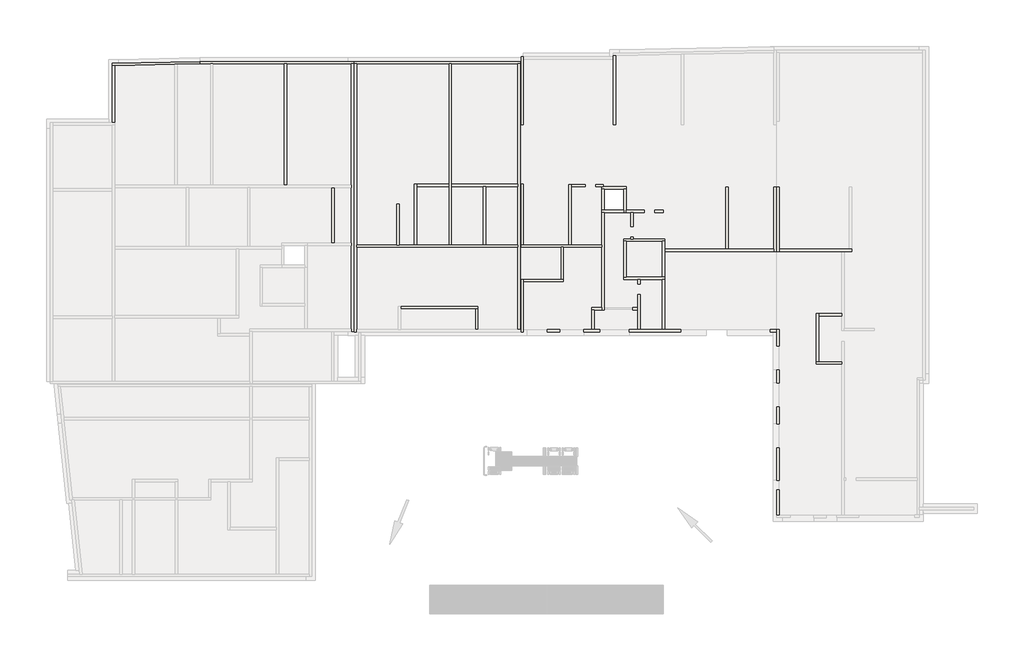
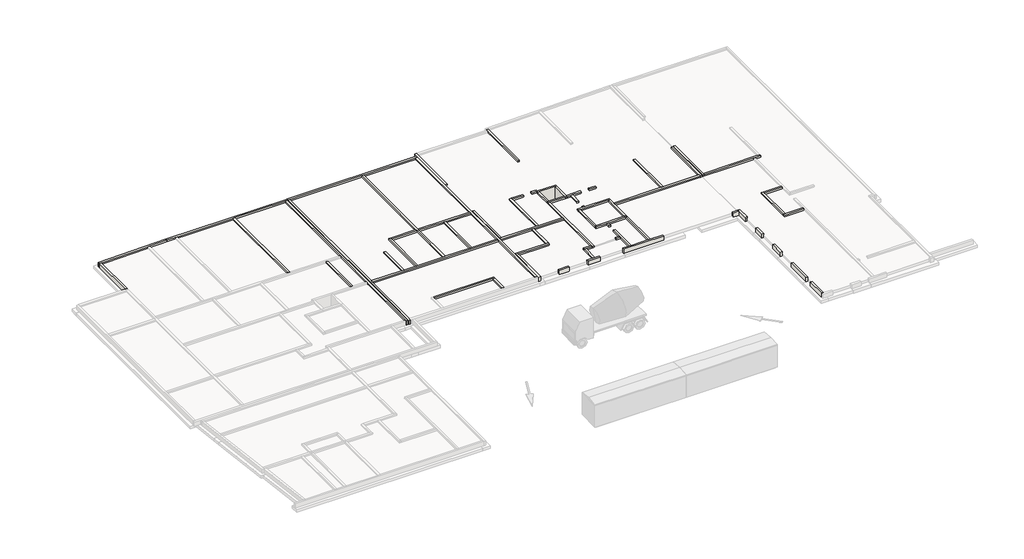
# One storey, part 2 of 5: 63 walls.
"""IFC4 building model written with IfcOpenShell, lengths in millimetres."""

from ifc_helpers import new_model, si_unit, frame, origin, place, context, project, spatial, polyline, outline, extrude, faceted_brep, element, save

model = new_model("IFC4")

# Units and contexts
model_context = context("Model", 3, world=origin())
ifc_project = project(units=[si_unit("LENGTHUNIT", "METRE", prefix="MILLI")], contexts=[model_context])

# Site, building, storey
site = spatial("IfcSite", under=ifc_project)
building = spatial("IfcBuilding", under=site)
storey = spatial("IfcBuildingStorey", under=building, Name="Base Mur soubassement", Elevation=-480.0)

# Walls
placement = place(None, origin())
element("IfcWall", 1, ObjectType="Ext. Voile BA 20", at=placement, inside=storey, context=model_context, shape_type="SweptSolid", body=[
    extrude(outline(polyline([(47687.6540405, 18465.2923443), (47687.6540405, 18865.2786309), (47887.6540405, 18865.2786309), (47887.6540405, 18465.2923443), (47687.6540405, 18465.2923443)])), frame((0.0, 0.0, -480.0), z_axis=(0.0, 0.0, 1.0), x_axis=(1.0, 0.0, 0.0)), (0.0, 0.0, 1.0), 480.0),
])
element("IfcWall", 2, ObjectType="Ext. Voile BA 20", at=placement, inside=storey, context=model_context, shape_type="Brep", body=[
    faceted_brep([(38068.6597873, 18684.2379364, -480.0), (41428.6220947, 18684.2379364, -480.0), (41428.6220947, 18684.2379364, 0.0), (38068.6597873, 18684.2379364, 0.0), (38068.6597873, 18884.2379364, -480.0), (38068.6597873, 18884.2379364, 0.0), (41228.6220947, 18884.2379364, 0.0), (41428.6220947, 18884.2379364, 0.0), (41428.6220947, 18884.2379364, -480.0), (41228.6220947, 18884.2379364, -480.0)], [[[0, 1, 2, 3]], [[4, 5, 6, 7, 8, 9]], [[1, 0, 4, 9, 8]], [[3, 2, 7, 6, 5]], [[0, 3, 5, 4]], [[2, 1, 8, 7]]]),
])
element("IfcWall", 3, ObjectType="Ext. Voile BA 20", at=placement, inside=storey, context=model_context, shape_type="SweptSolid", body=[
    extrude(outline(polyline([(47287.0291518, 22428.2705469), (47287.0291518, 22282.4542325), (47087.0291518, 22282.4542325), (47087.0291518, 22428.2705469), (47287.0291518, 22428.2705469)])), frame((0.0, 0.0, -480.0), z_axis=(0.0, 0.0, 1.0), x_axis=(1.0, 0.0, 0.0)), (0.0, 0.0, 1.0), 480.0),
])
element("IfcWall", 4, ObjectType="Ext. Voile BA 20", at=placement, inside=storey, context=model_context, shape_type="Brep", body=[
    faceted_brep([(49924.9149229, 21222.6249159, -480.0), (59092.1504559, 21222.6249159, -480.0), (59092.1504559, 21222.6249159, 0.0), (49924.9149229, 21222.6249159, 0.0), (49924.9149229, 21422.6249159, -480.0), (49924.9149229, 21422.6249159, 0.0), (55055.0439194, 21422.6249159, 0.0), (55255.0439194, 21422.6249159, 0.0), (59092.1504559, 21422.6249159, 0.0), (59092.1504559, 21422.6249159, -480.0), (55255.0439194, 21422.6249159, -480.0), (55055.0439194, 21422.6249159, -480.0)], [[[0, 1, 2, 3]], [[4, 5, 6, 7, 8, 9, 10, 11]], [[1, 0, 4, 11, 10, 9]], [[2, 1, 9, 8]], [[3, 2, 8, 7, 6, 5]], [[0, 3, 5, 4]]]),
])
element("IfcWall", 5, ObjectType="Ext. Voile BA 20", at=placement, inside=storey, context=model_context, shape_type="Brep", body=[
    faceted_brep([(59552.3933514, 21222.6249159, -480.0), (64812.3933514, 21222.6249159, -480.0), (65012.3933514, 21222.6249159, -480.0), (65613.8694348, 21222.6249159, -480.0), (65613.8694348, 21222.6249159, 0.0), (65012.3933514, 21222.6249159, 0.0), (64812.3933514, 21222.6249159, 0.0), (59552.3933514, 21222.6249159, 0.0), (59552.3933514, 21422.6249159, -480.0), (59552.3933514, 21422.6249159, 0.0), (65413.8694348, 21422.6249159, 0.0), (65613.8694348, 21422.6249159, 0.0), (65613.8694348, 21422.6249159, -480.0), (65413.8694348, 21422.6249159, -480.0)], [[[0, 1, 2, 3, 4, 5, 6, 7]], [[8, 9, 10, 11, 12, 13]], [[3, 2, 1, 0, 8, 13, 12]], [[7, 6, 5, 4, 11, 10, 9]], [[0, 7, 9, 8]], [[4, 3, 12, 11]]]),
])
element("IfcWall", 6, ObjectType="Ext. Voile BA 20", at=placement, inside=storey, context=model_context, shape_type="Brep", body=[
    faceted_brep([(45618.6199345, 37668.8543956, -480.0), (45618.6199345, 37580.5992191, -480.0), (45618.6199345, 37380.5992191, -480.0), (45618.6199345, 31857.9017346, -480.0), (45618.6199345, 31857.9017346, 0.0), (45618.6199345, 37380.5992191, 0.0), (45618.6199345, 37580.5992191, 0.0), (45618.6199345, 37668.8543956, 0.0), (45818.6199345, 37672.8357369, -480.0), (45818.6199345, 37672.8357369, 0.0), (45818.6199345, 31857.9017346, 0.0), (45818.6199345, 31857.9017346, -480.0)], [[[0, 1, 2, 3, 4, 5, 6, 7]], [[8, 9, 10, 11]], [[3, 2, 1, 0, 8, 11]], [[4, 3, 11, 10]], [[7, 6, 5, 4, 10, 9]], [[0, 7, 9, 8]]]),
])
element("IfcWall", 7, ObjectType="Ext. Voile BA 20", at=placement, inside=storey, context=model_context, shape_type="Brep", body=[
    faceted_brep([(64813.2256523, 11949.233281, -480.0), (62872.0019144, 11949.233281, -480.0), (62672.0019144, 11949.233281, -480.0), (62672.0019144, 11949.233281, 0.0), (62872.0019144, 11949.233281, 0.0), (64813.2256523, 11949.233281, 0.0), (64813.2256523, 11749.233281, -480.0), (64813.2256523, 11749.233281, 0.0), (62672.0019144, 11749.233281, 0.0), (62672.0019144, 11749.233281, -480.0)], [[[0, 1, 2, 3, 4, 5]], [[6, 7, 8, 9]], [[2, 1, 0, 6, 9]], [[5, 4, 3, 8, 7]], [[0, 5, 7, 6]], [[3, 2, 9, 8]]]),
])
element("IfcWall", 8, ObjectType="Ext. Voile BA 20", at=placement, inside=storey, context=model_context, shape_type="SweptSolid", body=[
    extrude(outline(polyline([(64812.3933514, 15804.7371374), (62872.0019144, 15804.7371374), (62872.0019144, 16004.7371374), (64812.3933514, 16004.7371374), (64812.3933514, 15804.7371374)])), frame((0.0, 0.0, -480.0), z_axis=(0.0, 0.0, 1.0), x_axis=(1.0, 0.0, 0.0)), (0.0, 0.0, 1.0), 480.0),
])
element("IfcWall", 9, ObjectType="Voile BA 20", at=placement, inside=storey, context=model_context, shape_type="Brep", body=[
    faceted_brep([(44657.2462422, 24500.9913711, -480.0), (44657.2462422, 21772.4500352, -480.0), (44657.2462422, 21572.4500352, -480.0), (44657.2462422, 16502.6881549, -480.0), (44657.2462422, 16302.6881549, -480.0), (44657.2462422, 16302.6881549, 0.0), (44657.2462422, 16502.6881549, 0.0), (44657.2462422, 21572.4500352, 0.0), (44657.2462422, 21772.4500352, 0.0), (44657.2462422, 24500.9913711, 0.0), (44857.2462422, 24500.9913711, -480.0), (44857.2462422, 24500.9913711, 0.0), (44857.2462422, 16302.6881549, 0.0), (44857.2462422, 16302.6881549, -480.0)], [[[0, 1, 2, 3, 4, 5, 6, 7, 8, 9]], [[10, 11, 12, 13]], [[4, 3, 2, 1, 0, 10, 13]], [[9, 8, 7, 6, 5, 12, 11]], [[5, 4, 13, 12]], [[0, 9, 11, 10]]]),
])
element("IfcWall", 10, ObjectType="Voile BA 20", at=placement, inside=storey, context=model_context, shape_type="Brep", body=[
    faceted_brep([(44657.2462422, 26457.7796483, -1400.0), (44857.2462422, 26457.7796483, -1400.0), (46507.3903862, 26457.7796483, -1400.0), (46707.3903862, 26457.7796483, -1400.0), (46707.3903862, 26457.7796483, 0.0), (46507.3903862, 26457.7796483, 0.0), (44857.2462422, 26457.7796483, 0.0), (44657.2462422, 26457.7796483, 0.0), (44657.2462422, 26657.7796483, -1400.0), (44657.2462422, 26657.7796483, 0.0), (46707.3903862, 26657.7796483, 0.0), (46707.3903862, 26657.7796483, -1400.0)], [[[0, 1, 2, 3, 4, 5, 6, 7]], [[8, 9, 10, 11]], [[3, 2, 1, 0, 8, 11]], [[7, 6, 5, 4, 10, 9]], [[4, 3, 11, 10]], [[0, 7, 9, 8]]]),
])
element("IfcWall", 11, ObjectType="Voile BA 20", at=placement, inside=storey, context=model_context, shape_type="Brep", body=[
    faceted_brep([(46507.3903862, 26457.7796483, -1400.0), (46507.3903862, 24500.9913711, -1400.0), (46507.3903862, 24500.9913711, -1380.0), (46507.3903862, 24500.9913711, 0.0), (46507.3903862, 24700.9913711, 0.0), (46507.3903862, 26457.7796483, 0.0), (46707.3903862, 26457.7796483, -1400.0), (46707.3903862, 26457.7796483, 0.0), (46707.3903862, 24700.9913711, 0.0), (46707.3903862, 24500.9913711, 0.0), (46707.3903862, 24500.9913711, -480.0), (46707.3903862, 24500.9913711, -1400.0)], [[[0, 1, 2, 3, 4, 5]], [[6, 7, 8, 9, 10, 11]], [[1, 0, 6, 11]], [[5, 4, 3, 9, 8, 7]], [[0, 5, 7, 6]], [[1, 11, 10, 9, 3, 2]]]),
])
element("IfcWall", 12, ObjectType="Voile BA 20", at=placement, inside=storey, context=model_context, shape_type="Brep", body=[
    faceted_brep([(46707.3903862, 24500.9913711, -480.0), (47077.0291518, 24500.9913711, -480.0), (47277.0291518, 24500.9913711, -480.0), (48207.3903862, 24500.9913711, -480.0), (48207.3903862, 24500.9913711, 0.0), (47277.0291518, 24500.9913711, 0.0), (47077.0291518, 24500.9913711, 0.0), (46707.3903862, 24500.9913711, 0.0), (46707.3903862, 24700.9913711, -480.0), (46707.3903862, 24700.9913711, 0.0), (48207.3903862, 24700.9913711, 0.0), (48207.3903862, 24700.9913711, -480.0)], [[[0, 1, 2, 3, 4, 5, 6, 7]], [[8, 9, 10, 11]], [[3, 2, 1, 0, 8, 11]], [[4, 3, 11, 10]], [[7, 6, 5, 4, 10, 9]], [[0, 7, 9, 8]]]),
])
element("IfcWall", 13, ObjectType="Voile BA 20", at=placement, inside=storey, context=model_context, shape_type="SweptSolid", body=[
    extrude(outline(polyline([(47277.0291518, 24500.9913711), (47277.0291518, 23318.2705469), (47077.0291518, 23318.2705469), (47077.0291518, 24500.9913711), (47277.0291518, 24500.9913711)])), frame((0.0, 0.0, -480.0), z_axis=(0.0, 0.0, 1.0), x_axis=(1.0, 0.0, 0.0)), (0.0, 0.0, 1.0), 480.0),
])
element("IfcWall", 14, ObjectType="Voile BA 20", at=placement, inside=storey, context=model_context, shape_type="Brep", body=[
    faceted_brep([(51269.4790947, 14657.8380717, -480.0), (49924.9149229, 14657.8380717, -480.0), (49724.9149229, 14657.8380717, -480.0), (47887.6540405, 14657.8380717, -480.0), (47687.6540405, 14657.8380717, -480.0), (46971.20252, 14657.8380717, -480.0), (46971.20252, 14657.8380717, 0.0), (47687.6540405, 14657.8380717, 0.0), (47887.6540405, 14657.8380717, 0.0), (49724.9149229, 14657.8380717, 0.0), (49924.9149229, 14657.8380717, 0.0), (51269.4790947, 14657.8380717, 0.0), (51269.4790947, 14457.8380717, -480.0), (51269.4790947, 14457.8380717, 0.0), (46971.20252, 14457.8380717, 0.0), (46971.20252, 14457.8380717, -480.0)], [[[0, 1, 2, 3, 4, 5, 6, 7, 8, 9, 10, 11]], [[12, 13, 14, 15]], [[5, 4, 3, 2, 1, 0, 12, 15]], [[6, 5, 15, 14]], [[11, 10, 9, 8, 7, 6, 14, 13]], [[0, 11, 13, 12]]]),
])
element("IfcWall", 15, ObjectType="Voile BA 20", at=placement, inside=storey, context=model_context, shape_type="Brep", body=[
    faceted_brep([(49924.9149229, 19065.2786309, -480.0), (49724.9149229, 19065.2786309, -480.0), (46711.356287, 19065.2786309, -480.0), (46511.356287, 19065.2786309, -480.0), (46511.356287, 19065.2786309, 0.0), (46711.356287, 19065.2786309, 0.0), (49724.9149229, 19065.2786309, 0.0), (49924.9149229, 19065.2786309, 0.0), (49924.9149229, 18865.2786309, -480.0), (49924.9149229, 18865.2786309, 0.0), (49724.9149229, 18865.2786309, 0.0), (47887.6540405, 18865.2786309, 0.0), (47687.6540405, 18865.2786309, 0.0), (46511.356287, 18865.2786309, 0.0), (46511.356287, 18865.2786309, -480.0), (47687.6540405, 18865.2786309, -480.0), (47887.6540405, 18865.2786309, -480.0), (49724.9149229, 18865.2786309, -480.0)], [[[0, 1, 2, 3, 4, 5, 6, 7]], [[8, 9, 10, 11, 12, 13, 14, 15, 16, 17]], [[3, 2, 1, 0, 8, 17, 16, 15, 14]], [[7, 6, 5, 4, 13, 12, 11, 10, 9]], [[4, 3, 14, 13]], [[0, 7, 9, 8]]]),
])
element("IfcWall", 16, ObjectType="Voile BA 20", at=placement, inside=storey, context=model_context, shape_type="Brep", body=[
    faceted_brep([(47687.6540405, 17610.1585602, -480.0), (47687.6540405, 16502.6881549, -480.0), (47687.6540405, 16302.6881549, -480.0), (47687.6540405, 14657.8380717, -480.0), (47687.6540405, 14657.8380717, 0.0), (47687.6540405, 16302.6881549, 0.0), (47687.6540405, 16502.6881549, 0.0), (47687.6540405, 17610.1585602, 0.0), (47887.6540405, 17610.1585602, -480.0), (47887.6540405, 17610.1585602, 0.0), (47887.6540405, 14657.8380717, 0.0), (47887.6540405, 14657.8380717, -480.0)], [[[0, 1, 2, 3, 4, 5, 6, 7]], [[8, 9, 10, 11]], [[3, 2, 1, 0, 8, 11]], [[7, 6, 5, 4, 10, 9]], [[0, 7, 9, 8]], [[4, 3, 11, 10]]]),
])
element("IfcWall", 17, ObjectType="Voile BA 20", at=placement, inside=storey, context=model_context, shape_type="Brep", body=[
    faceted_brep([(43797.5546594, 16302.6881549, -480.0), (43997.5546594, 16302.6881549, -480.0), (44657.2462422, 16302.6881549, -480.0), (44657.2462422, 16302.6881549, 0.0), (43997.5546594, 16302.6881549, 0.0), (43797.5546594, 16302.6881549, 0.0), (43797.5546594, 16502.6881549, -480.0), (43797.5546594, 16502.6881549, 0.0), (44657.2462422, 16502.6881549, 0.0), (44657.2462422, 16502.6881549, -480.0)], [[[0, 1, 2, 3, 4, 5]], [[6, 7, 8, 9]], [[2, 1, 0, 6, 9]], [[5, 4, 3, 8, 7]], [[3, 2, 9, 8]], [[0, 5, 7, 6]]]),
])
element("IfcWall", 18, ObjectType="Voile BA 20", at=placement, inside=storey, context=model_context, shape_type="SweptSolid", body=[
    extrude(outline(polyline([(47267.6540405, 16502.6881549), (47687.6540405, 16502.6881549), (47687.6540405, 16302.6881549), (47267.6540405, 16302.6881549), (47267.6540405, 16502.6881549)])), frame((0.0, 0.0, -480.0), z_axis=(0.0, 0.0, 1.0), x_axis=(1.0, 0.0, 0.0)), (0.0, 0.0, 1.0), 480.0),
])
element("IfcWall", 19, ObjectType="Voile BA 20", at=placement, inside=storey, context=model_context, shape_type="SweptSolid", body=[
    extrude(outline(polyline([(43997.5546594, 16302.6881549), (43997.5546594, 14662.1405969), (43797.5546594, 14662.1405969), (43797.5546594, 16302.6881549), (43997.5546594, 16302.6881549)])), frame((0.0, 0.0, -480.0), z_axis=(0.0, 0.0, 1.0), x_axis=(1.0, 0.0, 0.0)), (0.0, 0.0, 1.0), 480.0),
])
element("IfcWall", 20, ObjectType="Voile BA 20", at=placement, inside=storey, context=model_context, shape_type="Brep", body=[
    faceted_brep([(44475.9645277, 14662.1405969, -480.0), (43997.5546594, 14662.1405969, -480.0), (43797.5546594, 14662.1405969, -480.0), (43150.9645277, 14662.1405969, -480.0), (43150.9645277, 14662.1405969, 0.0), (43797.5546594, 14662.1405969, 0.0), (43997.5546594, 14662.1405969, 0.0), (44475.9645277, 14662.1405969, 0.0), (44475.9645277, 14462.1405969, -480.0), (44475.9645277, 14462.1405969, 0.0), (43150.9645277, 14462.1405969, 0.0), (43150.9645277, 14462.1405969, -480.0)], [[[0, 1, 2, 3, 4, 5, 6, 7]], [[8, 9, 10, 11]], [[3, 2, 1, 0, 8, 11]], [[4, 3, 11, 10]], [[7, 6, 5, 4, 10, 9]], [[0, 7, 9, 8]]]),
])
element("IfcWall", 21, ObjectType="Voile BA 20", at=placement, inside=storey, context=model_context, shape_type="SweptSolid", body=[
    extrude(outline(polyline([(41137.5546594, 14462.6998135), (40078.7313075, 14462.6998135), (40078.7313075, 14662.6998135), (41137.5546594, 14662.6998135), (41137.5546594, 14462.6998135)])), frame((0.0, 0.0, -480.0), z_axis=(0.0, 0.0, 1.0), x_axis=(1.0, 0.0, 0.0)), (0.0, 0.0, 1.0), 480.0),
])
element("IfcWall", 22, ObjectType="Voile BA 20", at=placement, inside=storey, context=model_context, shape_type="Brep", body=[
    faceted_brep([(38068.6597873, 14457.8380721, -480.0), (38068.6597873, 18684.2379364, -480.0), (38068.6597873, 18884.2379364, -480.0), (38068.6597873, 18884.2379364, 0.0), (38068.6597873, 18684.2379364, 0.0), (38068.6597873, 14457.8380721, 0.0), (37868.6597873, 14457.8380721, -480.0), (37868.6597873, 14457.8380721, 0.0), (37868.6597873, 18884.2379364, 0.0), (37868.6597873, 18884.2379364, -480.0)], [[[0, 1, 2, 3, 4, 5]], [[6, 7, 8, 9]], [[2, 1, 0, 6, 9]], [[5, 4, 3, 8, 7]], [[0, 5, 7, 6]], [[3, 2, 9, 8]]]),
])
element("IfcWall", 23, ObjectType="Voile BA 20", at=placement, inside=storey, context=model_context, shape_type="SweptSolid", body=[
    extrude(outline(polyline([(41428.6220947, 21572.4500352), (41428.6220947, 18884.2379364), (41228.6220947, 18884.2379364), (41228.6220947, 21572.4500352), (41428.6220947, 21572.4500352)])), frame((0.0, 0.0, -480.0), z_axis=(0.0, 0.0, 1.0), x_axis=(1.0, 0.0, 0.0)), (0.0, 0.0, 1.0), 480.0),
])
element("IfcWall", 24, ObjectType="Voile BA 20", at=placement, inside=storey, context=model_context, shape_type="Brep", body=[
    faceted_brep([(44657.2462422, 21772.4500352, -480.0), (42066.5033212, 21772.4500352, -480.0), (41866.5033212, 21772.4500352, -480.0), (38068.7313075, 21772.4500352, -480.0), (37868.7313075, 21772.4500352, -480.0), (37868.7313075, 21772.4500352, 0.0), (38068.7313075, 21772.4500352, 0.0), (41866.5033212, 21772.4500352, 0.0), (42066.5033212, 21772.4500352, 0.0), (44657.2462422, 21772.4500352, 0.0), (44657.2462422, 21572.4500352, -480.0), (44657.2462422, 21572.4500352, 0.0), (41428.6220947, 21572.4500352, 0.0), (41228.6220947, 21572.4500352, 0.0), (37868.7313075, 21572.4500352, 0.0), (37868.7313075, 21572.4500352, -480.0), (41228.6220947, 21572.4500352, -480.0), (41428.6220947, 21572.4500352, -480.0)], [[[0, 1, 2, 3, 4, 5, 6, 7, 8, 9]], [[10, 11, 12, 13, 14, 15, 16, 17]], [[4, 3, 2, 1, 0, 10, 17, 16, 15]], [[9, 8, 7, 6, 5, 14, 13, 12, 11]], [[0, 9, 11, 10]], [[5, 4, 15, 14]]]),
])
element("IfcWall", 25, ObjectType="Voile BA 20", at=placement, inside=storey, context=model_context, shape_type="SweptSolid", body=[
    extrude(outline(polyline([(38068.7313075, 26872.4500352), (38068.7313075, 21772.4500352), (37868.7313075, 21772.4500352), (37868.7313075, 26872.4500352), (38068.7313075, 26872.4500352)])), frame((0.0, 0.0, -480.0), z_axis=(0.0, 0.0, 1.0), x_axis=(1.0, 0.0, 0.0)), (0.0, 0.0, 1.0), 480.0),
])
element("IfcWall", 26, ObjectType="Voile BA 20", at=placement, inside=storey, context=model_context, shape_type="Brep", body=[
    faceted_brep([(42066.5033212, 21772.4500352, -480.0), (42066.5033212, 26657.8817009, -480.0), (42066.5033212, 26857.8817009, -480.0), (42066.5033212, 26857.8817009, 0.0), (42066.5033212, 26657.8817009, 0.0), (42066.5033212, 21772.4500352, 0.0), (41866.5033212, 21772.4500352, -480.0), (41866.5033212, 21772.4500352, 0.0), (41866.5033212, 26857.8817009, 0.0), (41866.5033212, 26857.8817009, -480.0)], [[[0, 1, 2, 3, 4, 5]], [[6, 7, 8, 9]], [[2, 1, 0, 6, 9]], [[5, 4, 3, 8, 7]], [[0, 5, 7, 6]], [[3, 2, 9, 8]]]),
])
element("IfcWall", 27, ObjectType="Voile BA 20", at=placement, inside=storey, context=model_context, shape_type="SweptSolid", body=[
    extrude(outline(polyline([(43272.2576695, 26657.8817009), (42066.5033212, 26657.8817009), (42066.5033212, 26857.8817009), (43272.2576695, 26857.8817009), (43272.2576695, 26657.8817009)])), frame((0.0, 0.0, -480.0), z_axis=(0.0, 0.0, 1.0), x_axis=(1.0, 0.0, 0.0)), (0.0, 0.0, 1.0), 480.0),
])
element("IfcWall", 28, ObjectType="Voile BA 20", at=placement, inside=storey, context=model_context, shape_type="SweptSolid", body=[
    extrude(outline(polyline([(44757.2462422, 26657.8817009), (44162.2590145, 26657.8817009), (44162.2590145, 26857.8817009), (44757.2462422, 26857.8817009), (44757.2462422, 26657.8817009)])), frame((0.0, 0.0, -480.0), z_axis=(0.0, 0.0, 1.0), x_axis=(1.0, 0.0, 0.0)), (0.0, 0.0, 1.0), 480.0),
])
element("IfcWall", 29, ObjectType="Voile BA 20", at=placement, inside=storey, context=model_context, shape_type="Brep", body=[
    faceted_brep([(49924.9149229, 22282.4542325, -480.0), (47287.0291518, 22282.4542325, -480.0), (47087.0291518, 22282.4542325, -480.0), (46511.356287, 22282.4542325, -480.0), (46511.356287, 22282.4542325, 0.0), (47087.0291518, 22282.4542325, 0.0), (47287.0291518, 22282.4542325, 0.0), (49924.9149229, 22282.4542325, 0.0), (49924.9149229, 22082.4542325, -480.0), (49924.9149229, 22082.4542325, 0.0), (49724.9149229, 22082.4542325, 0.0), (46711.356287, 22082.4542325, 0.0), (46511.356287, 22082.4542325, 0.0), (46511.356287, 22082.4542325, -480.0), (46711.356287, 22082.4542325, -480.0), (49724.9149229, 22082.4542325, -480.0)], [[[0, 1, 2, 3, 4, 5, 6, 7]], [[8, 9, 10, 11, 12, 13, 14, 15]], [[3, 2, 1, 0, 8, 15, 14, 13]], [[7, 6, 5, 4, 12, 11, 10, 9]], [[4, 3, 13, 12]], [[0, 7, 9, 8]]]),
])
element("IfcWall", 30, ObjectType="Voile BA 20", at=placement, inside=storey, context=model_context, shape_type="SweptSolid", body=[
    extrude(outline(polyline([(46511.356287, 19065.2786309), (46511.356287, 22082.4542325), (46711.356287, 22082.4542325), (46711.356287, 19065.2786309), (46511.356287, 19065.2786309)])), frame((0.0, 0.0, -480.0), z_axis=(0.0, 0.0, 1.0), x_axis=(1.0, 0.0, 0.0)), (0.0, 0.0, 1.0), 480.0),
])
element("IfcWall", 31, ObjectType="Voile BA 20", at=placement, inside=storey, context=model_context, shape_type="SweptSolid", body=[
    extrude(outline(polyline([(59292.2183923, 26622.6223725), (59292.2183923, 21216.7108088), (59092.2183923, 21216.7108088), (59092.2183923, 26622.6223725), (59292.2183923, 26622.6223725)])), frame((0.0, 0.0, -480.0), z_axis=(0.0, 0.0, 1.0), x_axis=(1.0, 0.0, 0.0)), (0.0, 0.0, 1.0), 480.0),
])
element("IfcWall", 32, ObjectType="Voile BA 20", at=placement, inside=storey, context=model_context, shape_type="SweptSolid", body=[
    extrude(outline(polyline([(55055.0439194, 21422.6249159), (55055.0439194, 26622.6237041), (55255.0439194, 26622.6237041), (55255.0439194, 21422.6249159), (55055.0439194, 21422.6249159)])), frame((0.0, 0.0, -480.0), z_axis=(0.0, 0.0, 1.0), x_axis=(1.0, 0.0, 0.0)), (0.0, 0.0, 1.0), 480.0),
])
element("IfcWall", 33, ObjectType="Voile BA 20", at=placement, inside=storey, context=model_context, shape_type="SweptSolid", body=[
    extrude(outline(polyline([(49924.9149229, 18865.2786309), (49924.9149229, 14657.8380717), (49724.9149229, 14657.8380717), (49724.9149229, 18865.2786309), (49924.9149229, 18865.2786309)])), frame((0.0, 0.0, -480.0), z_axis=(0.0, 0.0, 1.0), x_axis=(1.0, 0.0, 0.0)), (0.0, 0.0, 1.0), 480.0),
])
element("IfcWall", 34, ObjectType="Voile BA 20", at=placement, inside=storey, context=model_context, shape_type="SweptSolid", body=[
    extrude(outline(polyline([(49092.5494774, 24700.9913711), (49824.9149229, 24700.9913711), (49824.9149229, 24500.9913711), (49092.5494774, 24500.9913711), (49092.5494774, 24700.9913711)])), frame((0.0, 0.0, -480.0), z_axis=(0.0, 0.0, 1.0), x_axis=(1.0, 0.0, 0.0)), (0.0, 0.0, 1.0), 480.0),
])
element("IfcWall", 35, ObjectType="Voile BA 20", at=placement, inside=storey, context=model_context, shape_type="Brep", body=[
    faceted_brep([(59352.3933514, 26622.6223725, -480.0), (59352.3933514, 21222.6249159, -480.0), (59352.3933514, 21222.6249159, 0.0), (59352.3933514, 26622.6223725, 0.0), (59552.3933514, 26622.6223725, -480.0), (59552.3933514, 26622.6223725, 0.0), (59552.3933514, 21422.6249159, 0.0), (59552.3933514, 21222.6249159, 0.0), (59552.3933514, 21222.6249159, -480.0), (59552.3933514, 21422.6249159, -480.0)], [[[0, 1, 2, 3]], [[4, 5, 6, 7, 8, 9]], [[1, 0, 4, 9, 8]], [[3, 2, 7, 6, 5]], [[0, 3, 5, 4]], [[2, 1, 8, 7]]]),
])
element("IfcWall", 36, ObjectType="Voile BA 20", at=placement, inside=storey, context=model_context, shape_type="Brep", body=[
    faceted_brep([(38068.6597873, 31857.8992856, -480.0), (38068.6597873, 37380.5992191, -480.0), (38068.6597873, 37580.5992191, -480.0), (38068.6597873, 37580.5992191, 0.0), (38068.6597873, 37380.5992191, 0.0), (38068.6597873, 31857.8992856, 0.0), (37868.6597873, 31857.8992856, -480.0), (37868.6597873, 31857.8992856, 0.0), (37868.6597873, 37580.5992191, 0.0), (37868.6597873, 37580.5992191, -480.0)], [[[0, 1, 2, 3, 4, 5]], [[6, 7, 8, 9]], [[2, 1, 0, 6, 9]], [[5, 4, 3, 8, 7]], [[0, 5, 7, 6]], [[3, 2, 9, 8]]]),
])
element("IfcWall", 37, ObjectType="Voile BA 20", at=placement, inside=storey, context=model_context, shape_type="Brep", body=[
    faceted_brep([(62872.0019144, 11949.233281, -480.0), (62872.0019144, 15804.7371374, -480.0), (62872.0019144, 16004.7371374, -480.0), (62872.0019144, 16004.7371374, 0.0), (62872.0019144, 15804.7371374, 0.0), (62872.0019144, 11949.233281, 0.0), (62672.0019144, 11949.233281, -480.0), (62672.0019144, 11949.233281, 0.0), (62672.0019144, 16004.7371374, 0.0), (62672.0019144, 16004.7371374, -480.0)], [[[0, 1, 2, 3, 4, 5]], [[6, 7, 8, 9]], [[2, 1, 0, 6, 9]], [[5, 4, 3, 8, 7]], [[0, 5, 7, 6]], [[3, 2, 9, 8]]]),
])
element("IfcWall", 38, ObjectType="Voile BA 20", at=placement, inside=storey, context=model_context, shape_type="SweptSolid", body=[
    extrude(outline(polyline([(59552.8933514, 1179.659023), (59552.8933514, -933.5235574), (59352.8933514, -933.5235574), (59352.8933514, 1179.659023), (59552.8933514, 1179.659023)])), frame((0.0, 0.0, -480.0), z_axis=(0.0, 0.0, 1.0), x_axis=(1.0, 0.0, 0.0)), (0.0, 0.0, 1.0), 480.0),
])
element("IfcWall", 39, ObjectType="Voile BA 20", at=placement, inside=storey, context=model_context, shape_type="SweptSolid", body=[
    extrude(outline(polyline([(59553.8975177, 4727.955072), (59553.8975177, 1982.6881549), (59353.8975177, 1982.6881549), (59353.8975177, 4727.955072), (59553.8975177, 4727.955072)])), frame((0.0, 0.0, -480.0), z_axis=(0.0, 0.0, 1.0), x_axis=(1.0, 0.0, 0.0)), (0.0, 0.0, 1.0), 480.0),
])
element("IfcWall", 40, ObjectType="Voile BA 20", at=placement, inside=storey, context=model_context, shape_type="SweptSolid", body=[
    extrude(outline(polyline([(59553.8975177, 8167.955072), (59553.8975177, 6727.955072), (59353.8975177, 6727.955072), (59353.8975177, 8167.955072), (59553.8975177, 8167.955072)])), frame((0.0, 0.0, -480.0), z_axis=(0.0, 0.0, 1.0), x_axis=(1.0, 0.0, 0.0)), (0.0, 0.0, 1.0), 480.0),
])
element("IfcWall", 41, ObjectType="Voile BA 20", at=placement, inside=storey, context=model_context, shape_type="SweptSolid", body=[
    extrude(outline(polyline([(59552.9134361, 11276.7065018), (59552.9134361, 10176.7065018), (59352.9134361, 10176.7065018), (59352.9134361, 11276.7065018), (59552.9134361, 11276.7065018)])), frame((0.0, 0.0, -480.0), z_axis=(0.0, 0.0, 1.0), x_axis=(1.0, 0.0, 0.0)), (0.0, 0.0, 1.0), 480.0),
])
element("IfcWall", 42, ObjectType="Voile BA 20", at=placement, inside=storey, context=model_context, shape_type="Brep", body=[
    faceted_brep([(59553.8975177, 13280.5941452, -480.0), (59553.8975177, 14660.5941452, -480.0), (59553.8975177, 14660.5941452, 0.0), (59553.8975177, 13280.5941452, 0.0), (59353.8975177, 13280.5941452, -480.0), (59353.8975177, 13280.5941452, 0.0), (59353.8975177, 14457.8380715, 0.0), (59353.8975177, 14657.8380715, 0.0), (59353.8975177, 14660.5941452, 0.0), (59353.8975177, 14660.5941452, -480.0), (59353.8975177, 14657.8380715, -480.0), (59353.8975177, 14457.8380715, -480.0)], [[[0, 1, 2, 3]], [[4, 5, 6, 7, 8, 9, 10, 11]], [[1, 0, 4, 11, 10, 9]], [[2, 1, 9, 8]], [[3, 2, 8, 7, 6, 5]], [[0, 3, 5, 4]]]),
])
element("IfcWall", 43, ObjectType="Voile BA 20", at=placement, inside=storey, context=model_context, shape_type="SweptSolid", body=[
    extrude(outline(polyline([(58772.0817174, 14657.8380715), (59353.8975177, 14657.8380715), (59353.8975177, 14457.8380715), (58772.0817174, 14457.8380715), (58772.0817174, 14657.8380715)])), frame((0.0, 0.0, -480.0), z_axis=(0.0, 0.0, 1.0), x_axis=(1.0, 0.0, 0.0)), (0.0, 0.0, 1.0), 480.0),
])
element("IfcWall", 44, ObjectType="Voile BA 20", at=placement, inside=storey, context=model_context, shape_type="Brep", body=[
    faceted_brep([(3556.9078335, 36836.1925228, -480.0), (3756.9078335, 36840.1745184, -480.0), (8817.5794193, 36940.9323768, -480.0), (9017.5794193, 36944.9143723, -480.0), (10900.7349098, 36982.4079561, -480.0), (10900.7349098, 36982.4079561, 0.0), (9017.5794193, 36944.9143723, 0.0), (8817.5794193, 36940.9323768, 0.0), (3756.9078335, 36840.1745184, 0.0), (3556.9078335, 36836.1925228, 0.0), (3556.9078335, 37036.2321596, -480.0), (3556.9078335, 37036.2321596, 0.0), (10898.7441093, 37182.4079561, 0.0), (10898.7441093, 37182.4079561, -480.0)], [[[0, 1, 2, 3, 4, 5, 6, 7, 8, 9]], [[10, 11, 12, 13]], [[4, 3, 2, 1, 0, 10, 13]], [[9, 8, 7, 6, 5, 12, 11]], [[5, 4, 13, 12]], [[0, 9, 11, 10]]]),
])
element("IfcWall", 45, ObjectType="Voile BA 20", at=placement, inside=storey, context=model_context, shape_type="Brep", body=[
    faceted_brep([(10900.7349098, 36982.4079561, -480.0), (11803.2656575, 36982.4079561, -480.0), (12003.2656575, 36982.4079561, -480.0), (17999.2548774, 36982.4079561, -480.0), (18199.2548774, 36982.4079561, -480.0), (23619.3814813, 36982.4079561, -480.0), (23819.3814813, 36982.4079561, -480.0), (23819.3814813, 36982.4079561, 0.0), (23619.3814813, 36982.4079561, 0.0), (18199.2548774, 36982.4079561, 0.0), (17999.2548774, 36982.4079561, 0.0), (12003.2656575, 36982.4079561, 0.0), (11803.2656575, 36982.4079561, 0.0), (10900.7349098, 36982.4079561, 0.0), (10898.7441094, 37182.4079561, -480.0), (10898.7441094, 37182.4079561, 0.0), (23819.3814813, 37182.4079561, 0.0), (23819.3814813, 37182.4079561, -480.0)], [[[0, 1, 2, 3, 4, 5, 6, 7, 8, 9, 10, 11, 12, 13]], [[14, 15, 16, 17]], [[6, 5, 4, 3, 2, 1, 0, 14, 17]], [[13, 12, 11, 10, 9, 8, 7, 16, 15]], [[0, 13, 15, 14]], [[7, 6, 17, 16]]]),
])
element("IfcWall", 46, ObjectType="Voile BA 20", at=placement, inside=storey, context=model_context, shape_type="Brep", body=[
    faceted_brep([(23619.3814813, 36982.4079561, -480.0), (23619.3814813, 26787.8872551, -480.0), (23619.3814813, 26587.8872551, -480.0), (23619.3814813, 21916.9971343, -480.0), (23619.3814813, 21716.9971343, -480.0), (23619.3814813, 14687.8380735, -480.0), (23619.3814813, 14487.8380735, -480.0), (23619.3814813, 14487.8380735, 0.0), (23619.3814813, 14687.8380735, 0.0), (23619.3814813, 21716.9971343, 0.0), (23619.3814813, 21916.9971343, 0.0), (23619.3814813, 26587.8872551, 0.0), (23619.3814813, 26787.8872551, 0.0), (23619.3814813, 36982.4079561, 0.0), (23819.3814813, 36982.4079561, -480.0), (23819.3814813, 36982.4079561, 0.0), (23819.3814813, 14487.8380735, 0.0), (23819.3814813, 14487.8380735, -480.0)], [[[0, 1, 2, 3, 4, 5, 6, 7, 8, 9, 10, 11, 12, 13]], [[14, 15, 16, 17]], [[6, 5, 4, 3, 2, 1, 0, 14, 17]], [[13, 12, 11, 10, 9, 8, 7, 16, 15]], [[0, 13, 15, 14]], [[7, 6, 17, 16]]]),
])
element("IfcWall", 47, ObjectType="Voile BA 20", at=placement, inside=storey, context=model_context, shape_type="SweptSolid", body=[
    extrude(outline(polyline([(3756.9078335, 36840.1745184), (3756.9078335, 32028.092309), (3556.9078335, 32028.092309), (3556.9078335, 36836.1925228), (3756.9078335, 36840.1745184)])), frame((0.0, 0.0, -480.0), z_axis=(0.0, 0.0, 1.0), x_axis=(1.0, 0.0, 0.0)), (0.0, 0.0, 1.0), 480.0),
])
element("IfcWall", 48, ObjectType="Voile BA 20", at=placement, inside=storey, context=model_context, shape_type="SweptSolid", body=[
    extrude(outline(polyline([(17999.2548774, 26787.8872551), (17999.2548774, 36982.4079561), (18199.2548774, 36982.4079561), (18199.2548774, 26787.8872551), (17999.2548774, 26787.8872551)])), frame((0.0, 0.0, -480.0), z_axis=(0.0, 0.0, 1.0), x_axis=(1.0, 0.0, 0.0)), (0.0, 0.0, 1.0), 480.0),
])
element("IfcWall", 49, ObjectType="Voile BA 20", at=placement, inside=storey, context=model_context, shape_type="SweptSolid", body=[
    extrude(outline(polyline([(21995.0786989, 21916.9971343), (21995.0786989, 26587.8872551), (22195.0786989, 26587.8872551), (22195.0786989, 21916.9971343), (21995.0786989, 21916.9971343)])), frame((0.0, 0.0, -480.0), z_axis=(0.0, 0.0, 1.0), x_axis=(1.0, 0.0, 0.0)), (0.0, 0.0, 1.0), 480.0),
])
element("IfcWall", 50, ObjectType="Voile BA 20", at=placement, inside=storey, context=model_context, shape_type="Brep", body=[
    faceted_brep([(23879.3002373, 36982.4079561, -480.0), (24079.3002373, 36982.4079561, -480.0), (31828.7587922, 36982.4079561, -480.0), (32028.7587922, 36982.4079561, -480.0), (37608.398272, 36982.4079561, -480.0), (37808.398272, 36982.4079561, -480.0), (37808.398272, 36982.4079561, 0.0), (37608.398272, 36982.4079561, 0.0), (32028.7587922, 36982.4079561, 0.0), (31828.7587922, 36982.4079561, 0.0), (24079.3002373, 36982.4079561, 0.0), (23879.3002373, 36982.4079561, 0.0), (23879.3002373, 37182.4079561, -480.0), (23879.3002373, 37182.4079561, 0.0), (37808.398272, 37182.4079561, 0.0), (37808.398272, 37182.4079561, -480.0)], [[[0, 1, 2, 3, 4, 5, 6, 7, 8, 9, 10, 11]], [[12, 13, 14, 15]], [[5, 4, 3, 2, 1, 0, 12, 15]], [[11, 10, 9, 8, 7, 6, 14, 13]], [[6, 5, 15, 14]], [[0, 11, 13, 12]]]),
])
element("IfcWall", 51, ObjectType="Voile BA 20", at=placement, inside=storey, context=model_context, shape_type="Brep", body=[
    faceted_brep([(37608.398272, 21773.8066571, -480.0), (34893.5365752, 21773.8066571, -480.0), (34693.5365752, 21773.8066571, -480.0), (32028.7587922, 21773.8066571, -480.0), (31828.7587922, 21773.8066571, -480.0), (29098.3646686, 21773.8066571, -480.0), (28898.3646686, 21773.8066571, -480.0), (27626.9896309, 21773.8066571, -480.0), (27426.9896309, 21773.8066571, -480.0), (24079.3002373, 21773.8066571, -480.0), (24079.3002373, 21773.8066571, 0.0), (27426.9896309, 21773.8066571, 0.0), (27626.9896309, 21773.8066571, 0.0), (28898.3646686, 21773.8066571, 0.0), (29098.3646686, 21773.8066571, 0.0), (31828.7587922, 21773.8066571, 0.0), (32028.7587922, 21773.8066571, 0.0), (34693.5365752, 21773.8066571, 0.0), (34893.5365752, 21773.8066571, 0.0), (37608.398272, 21773.8066571, 0.0), (37608.398272, 21573.8066571, -480.0), (37608.398272, 21573.8066571, 0.0), (24079.3002373, 21573.8066571, 0.0), (24079.3002373, 21573.8066571, -480.0)], [[[0, 1, 2, 3, 4, 5, 6, 7, 8, 9, 10, 11, 12, 13, 14, 15, 16, 17, 18, 19]], [[20, 21, 22, 23]], [[9, 8, 7, 6, 5, 4, 3, 2, 1, 0, 20, 23]], [[19, 18, 17, 16, 15, 14, 13, 12, 11, 10, 22, 21]], [[10, 9, 23, 22]], [[0, 19, 21, 20]]]),
])
element("IfcWall", 52, ObjectType="Voile BA 20", at=placement, inside=storey, context=model_context, shape_type="Brep", body=[
    faceted_brep([(23879.3002373, 36982.4079561, -480.0), (23879.3002373, 14464.3593187, -480.0), (23879.3002373, 14464.3593187, 0.0), (23879.3002373, 36982.4079561, 0.0), (24079.3002373, 36982.4079561, -480.0), (24079.3002373, 36982.4079561, 0.0), (24079.3002373, 21773.8066571, 0.0), (24079.3002373, 21573.8066571, 0.0), (24079.3002373, 14664.3593187, 0.0), (24079.3002373, 14464.3593187, 0.0), (24079.3002373, 14464.3593187, -480.0), (24079.3002373, 14664.3593187, -480.0), (24079.3002373, 21573.8066571, -480.0), (24079.3002373, 21773.8066571, -480.0)], [[[0, 1, 2, 3]], [[4, 5, 6, 7, 8, 9, 10, 11, 12, 13]], [[1, 0, 4, 13, 12, 11, 10]], [[3, 2, 9, 8, 7, 6, 5]], [[0, 3, 5, 4]], [[2, 1, 10, 9]]]),
])
element("IfcWall", 53, ObjectType="Voile BA 20", at=placement, inside=storey, context=model_context, shape_type="Brep", body=[
    faceted_brep([(37808.398272, 14664.3593187, -480.0), (37808.398272, 36982.4079561, -480.0), (37808.398272, 36982.4079561, 0.0), (37808.398272, 14664.3593187, 0.0), (37608.398272, 14664.3593187, -480.0), (37608.398272, 14664.3593187, 0.0), (37608.398272, 21573.8066571, 0.0), (37608.398272, 21773.8066571, 0.0), (37608.398272, 26672.4500352, 0.0), (37608.398272, 26872.4500352, 0.0), (37608.398272, 36982.4079561, 0.0), (37608.398272, 36982.4079561, -480.0), (37608.398272, 26872.4500352, -480.0), (37608.398272, 26672.4500352, -480.0), (37608.398272, 21773.8066571, -480.0), (37608.398272, 21573.8066571, -480.0)], [[[0, 1, 2, 3]], [[4, 5, 6, 7, 8, 9, 10, 11, 12, 13, 14, 15]], [[1, 0, 4, 15, 14, 13, 12, 11]], [[3, 2, 10, 9, 8, 7, 6, 5]], [[0, 3, 5, 4]], [[2, 1, 11, 10]]]),
])
element("IfcWall", 54, ObjectType="Voile BA 20", at=placement, inside=storey, context=model_context, shape_type="Brep", body=[
    faceted_brep([(31828.7587922, 36982.4079561, -480.0), (31828.7587922, 26872.4500352, -480.0), (31828.7587922, 26672.4500352, -480.0), (31828.7587922, 21773.8066571, -480.0), (31828.7587922, 21773.8066571, 0.0), (31828.7587922, 26672.4500352, 0.0), (31828.7587922, 26872.4500352, 0.0), (31828.7587922, 36982.4079561, 0.0), (32028.7587922, 36982.4079561, -480.0), (32028.7587922, 36982.4079561, 0.0), (32028.7587922, 26872.4500352, 0.0), (32028.7587922, 26672.4500352, 0.0), (32028.7587922, 21773.8066571, 0.0), (32028.7587922, 21773.8066571, -480.0), (32028.7587922, 26672.4500352, -480.0), (32028.7587922, 26872.4500352, -480.0)], [[[0, 1, 2, 3, 4, 5, 6, 7]], [[8, 9, 10, 11, 12, 13, 14, 15]], [[3, 2, 1, 0, 8, 15, 14, 13]], [[7, 6, 5, 4, 12, 11, 10, 9]], [[0, 7, 9, 8]], [[4, 3, 13, 12]]]),
])
element("IfcWall", 55, ObjectType="Voile BA 20", at=placement, inside=storey, context=model_context, shape_type="SweptSolid", body=[
    extrude(outline(polyline([(34693.5365752, 21773.8066571), (34693.5365752, 26672.4500352), (34893.5365752, 26672.4500352), (34893.5365752, 21773.8066571), (34693.5365752, 21773.8066571)])), frame((0.0, 0.0, -480.0), z_axis=(0.0, 0.0, 1.0), x_axis=(1.0, 0.0, 0.0)), (0.0, 0.0, 1.0), 480.0),
])
element("IfcWall", 56, ObjectType="Voile BA 20", at=placement, inside=storey, context=model_context, shape_type="Brep", body=[
    faceted_brep([(28898.3646686, 26872.4500352, -480.0), (28898.3646686, 21773.8066571, -480.0), (28898.3646686, 21773.8066571, 0.0), (28898.3646686, 26872.4500352, 0.0), (29098.3646686, 26872.4500352, -480.0), (29098.3646686, 26872.4500352, 0.0), (29098.3646686, 26672.4500352, 0.0), (29098.3646686, 21773.8066571, 0.0), (29098.3646686, 21773.8066571, -480.0), (29098.3646686, 26672.4500352, -480.0)], [[[0, 1, 2, 3]], [[4, 5, 6, 7, 8, 9]], [[1, 0, 4, 9, 8]], [[3, 2, 7, 6, 5]], [[2, 1, 8, 7]], [[0, 3, 5, 4]]]),
])
element("IfcWall", 57, ObjectType="Voile BA 20", at=placement, inside=storey, context=model_context, shape_type="SweptSolid", body=[
    extrude(outline(polyline([(27426.9896309, 21773.8066571), (27426.9896309, 25207.8241701), (27626.9896309, 25207.8241701), (27626.9896309, 21773.8066571), (27426.9896309, 21773.8066571)])), frame((0.0, 0.0, -480.0), z_axis=(0.0, 0.0, 1.0), x_axis=(1.0, 0.0, 0.0)), (0.0, 0.0, 1.0), 480.0),
])
element("IfcWall", 58, ObjectType="Voile BA 20", at=placement, inside=storey, context=model_context, shape_type="Brep", body=[
    faceted_brep([(29098.3646686, 26672.4500352, 0.0), (29098.3646686, 26672.4500352, -480.0), (31828.7587922, 26672.4500352, -480.0), (31828.7587922, 26672.4500352, 0.0), (29098.3646686, 26872.4500352, -480.0), (29098.3646686, 26872.4500352, 0.0), (31828.7587922, 26872.4500352, 0.0), (31828.7587922, 26872.4500352, -480.0)], [[[0, 1, 2, 3]], [[4, 5, 6, 7]], [[1, 4, 7, 2]], [[5, 0, 3, 6]], [[1, 0, 5, 4]], [[3, 2, 7, 6]]]),
    faceted_brep([(37608.398272, 26672.4500352, -480.0), (37608.398272, 26672.4500352, 0.0), (34893.5365752, 26672.4500352, 0.0), (34693.5365752, 26672.4500352, 0.0), (32028.7587922, 26672.4500352, 0.0), (32028.7587922, 26672.4500352, -480.0), (34693.5365752, 26672.4500352, -480.0), (34893.5365752, 26672.4500352, -480.0), (37608.398272, 26872.4500352, 0.0), (37608.398272, 26872.4500352, -480.0), (32028.7587922, 26872.4500352, -480.0), (32028.7587922, 26872.4500352, 0.0)], [[[0, 1, 2, 3, 4, 5, 6, 7]], [[8, 9, 10, 11]], [[9, 0, 7, 6, 5, 10]], [[1, 8, 11, 4, 3, 2]], [[5, 4, 11, 10]], [[1, 0, 9, 8]]]),
])
element("IfcWall", 59, ObjectType="Voile BA 20", at=placement, inside=storey, context=model_context, shape_type="Brep", body=[
    faceted_brep([(27766.9796966, 16411.4012934, -480.0), (34052.3966699, 16411.4012934, -480.0), (34252.3966699, 16411.4012934, -480.0), (34252.3966699, 16411.4012934, 0.0), (34052.3966699, 16411.4012934, 0.0), (27766.9796966, 16411.4012934, 0.0), (27766.9796966, 16611.4012934, -480.0), (27766.9796966, 16611.4012934, 0.0), (34252.3966699, 16611.4012934, 0.0), (34252.3966699, 16611.4012934, -480.0)], [[[0, 1, 2, 3, 4, 5]], [[6, 7, 8, 9]], [[2, 1, 0, 6, 9]], [[5, 4, 3, 8, 7]], [[0, 5, 7, 6]], [[3, 2, 9, 8]]]),
])
element("IfcWall", 60, ObjectType="Voile BA 20", at=placement, inside=storey, context=model_context, shape_type="SweptSolid", body=[
    extrude(outline(polyline([(34052.3966699, 14664.3593187), (34052.3966699, 16411.4012934), (34252.3966699, 16411.4012934), (34252.3966699, 14664.3593187), (34052.3966699, 14664.3593187)])), frame((0.0, 0.0, -480.0), z_axis=(0.0, 0.0, 1.0), x_axis=(1.0, 0.0, 0.0)), (0.0, 0.0, 1.0), 480.0),
])
element("IfcWall", 61, ObjectType="Voile BA 20", at=placement, inside=storey, context=model_context, shape_type="Brep", body=[
    faceted_brep([(49724.9149229, 22082.4542325, -480.0), (49724.9149229, 19065.2786309, -480.0), (49724.9149229, 19065.2786309, 0.0), (49724.9149229, 22082.4542325, 0.0), (49924.9149229, 22082.4542325, -480.0), (49924.9149229, 22082.4542325, 0.0), (49924.9149229, 21422.6249159, 0.0), (49924.9149229, 21222.6249159, 0.0), (49924.9149229, 19065.2786309, 0.0), (49924.9149229, 19065.2786309, -480.0), (49924.9149229, 21222.6249159, -480.0), (49924.9149229, 21422.6249159, -480.0)], [[[0, 1, 2, 3]], [[4, 5, 6, 7, 8, 9, 10, 11]], [[1, 0, 4, 11, 10, 9]], [[3, 2, 8, 7, 6, 5]], [[2, 1, 9, 8]], [[0, 3, 5, 4]]]),
])
element("IfcWall", 62, ObjectType="Voile BA 20", at=placement, inside=storey, context=model_context, shape_type="Brep", body=[
    faceted_brep([(46507.3903862, 24700.9913711, -1380.0), (44657.2462422, 24700.9913711, -1380.0), (44657.2462422, 24700.9913711, 0.0), (44857.2462422, 24700.9913711, 0.0), (46507.3903862, 24700.9913711, 0.0), (46507.3903862, 24500.9913711, -1380.0), (46507.3903862, 24500.9913711, 0.0), (44857.2462422, 24500.9913711, 0.0), (44657.2462422, 24500.9913711, 0.0), (44657.2462422, 24500.9913711, -480.0), (44657.2462422, 24500.9913711, -1380.0)], [[[0, 1, 2, 3, 4]], [[5, 6, 7, 8, 9, 10]], [[1, 0, 5, 10]], [[4, 3, 2, 8, 7, 6]], [[0, 4, 6, 5]], [[1, 10, 9, 8, 2]]]),
])
element("IfcWall", 63, ObjectType="Voile BA 20", at=placement, inside=storey, context=model_context, shape_type="Brep", body=[
    faceted_brep([(44857.2462422, 24700.9913711, 0.0), (44857.2462422, 24700.9913711, -1400.0), (44857.2462422, 26457.7796483, -1400.0), (44857.2462422, 26457.7796483, 0.0), (44657.2462422, 24700.9913711, -1400.0), (44657.2462422, 24700.9913711, -1380.0), (44657.2462422, 24700.9913711, 0.0), (44657.2462422, 26457.7796483, 0.0), (44657.2462422, 26457.7796483, -1400.0)], [[[0, 1, 2, 3]], [[4, 5, 6, 7, 8]], [[2, 1, 4, 8]], [[0, 3, 7, 6]], [[3, 2, 8, 7]], [[0, 6, 5, 4, 1]]]),
])

save(model, "model.ifc")
